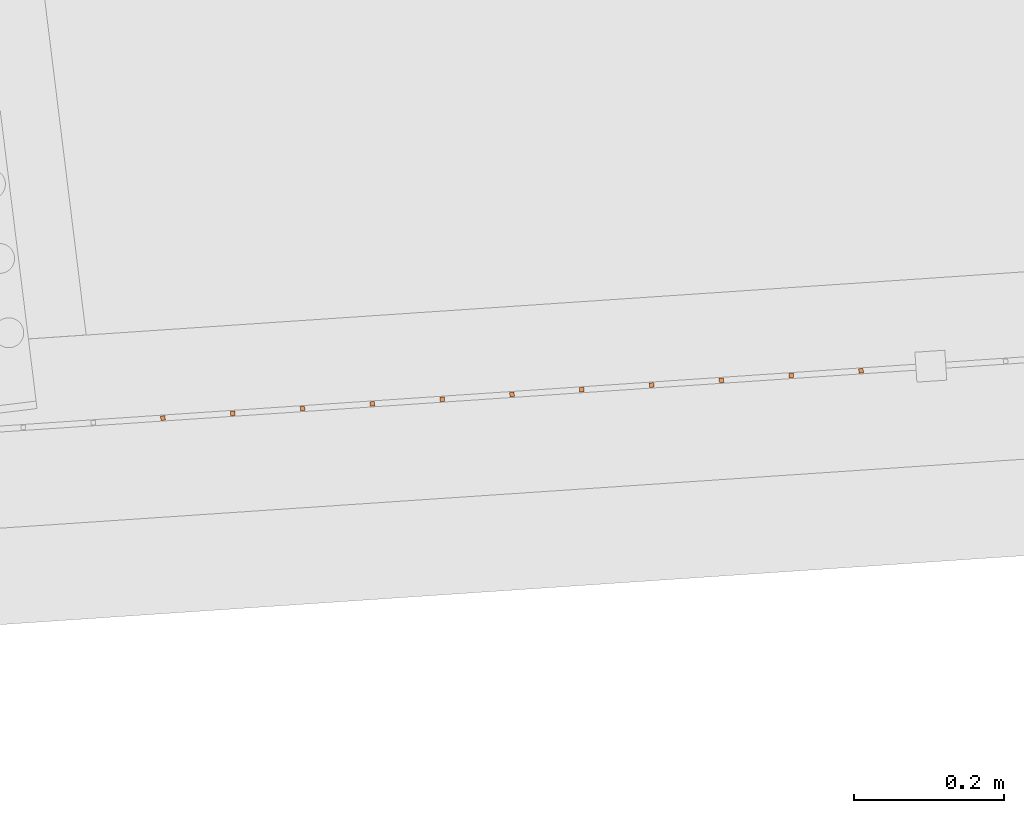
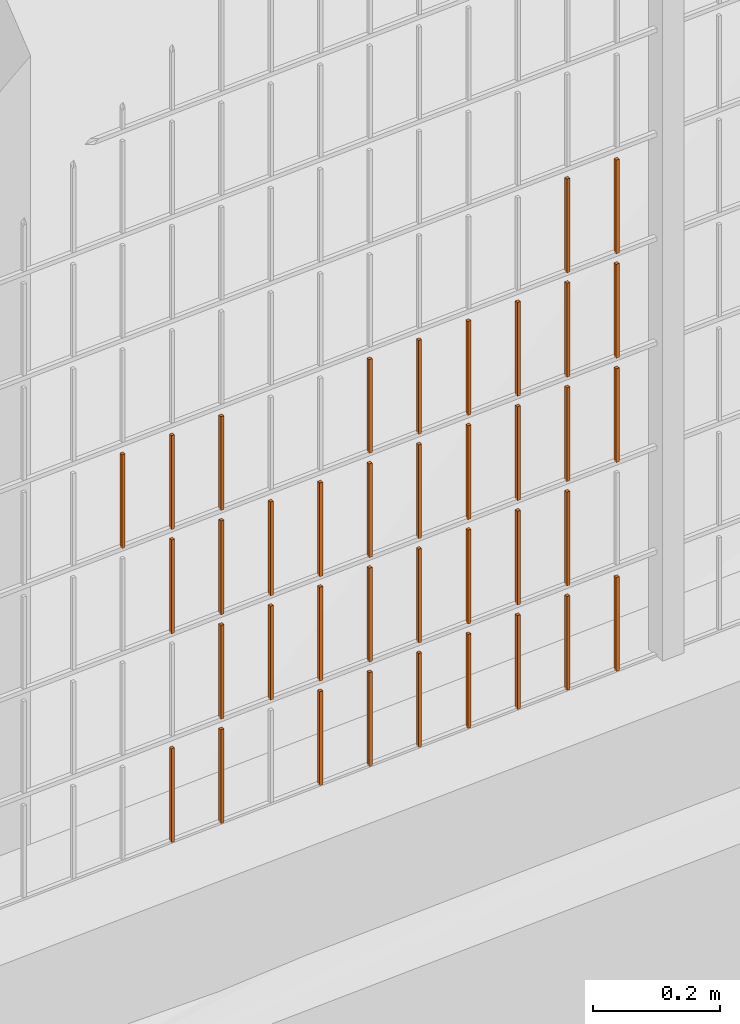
# One storey, part 54 of 1809: 38 proxies, 1 element without a shape of its own.
"""IFC2X3 building model written with IfcOpenShell, lengths in millimetres."""

from ifc_helpers import new_model, entity, si_unit, converted_unit, derived_unit, money_unit, direction, frame, origin_with_axes, place, context, subcontext, project, spatial, faceted_brep, source, transform, mapped, material, type_object, element, aggregate, save


model = new_model("IFC2X3")

# Units and contexts
model_context = context("Model", 3, precision=0.01, world=origin_with_axes(), true_north=direction((0.0, 1.0)))
body_context = subcontext(model_context, "Body", "Model", "MODEL_VIEW")
ifc_project = project(units=[si_unit("LENGTHUNIT", "METRE", prefix="MILLI"), si_unit("AREAUNIT", "SQUARE_METRE"), si_unit("VOLUMEUNIT", "CUBIC_METRE"), converted_unit("PLANEANGLEUNIT", "DEGREE", entity("IfcPlaneAngleMeasure", 0.0174532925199), si_unit("PLANEANGLEUNIT", "RADIAN"), dimensions=[0, 0, 0, 0, 0, 0, 0]), si_unit("SOLIDANGLEUNIT", "STERADIAN"), money_unit("EUR"), converted_unit("TIMEUNIT", "Year", entity("IfcTimeMeasure", 31556926.0), si_unit("TIMEUNIT", "SECOND"), dimensions=[0, 0, 1, 0, 0, 0, 0]), si_unit("MASSUNIT", "GRAM", prefix="KILO"), si_unit("THERMODYNAMICTEMPERATUREUNIT", "DEGREE_CELSIUS"), si_unit("LUMINOUSINTENSITYUNIT", "LUMEN"), si_unit("ENERGYUNIT", "JOULE", prefix="MEGA"), derived_unit("THERMALCONDUCTANCEUNIT", [(si_unit("POWERUNIT", "WATT"), 1), (si_unit("LENGTHUNIT", "METRE"), -1), (si_unit("THERMODYNAMICTEMPERATUREUNIT", "KELVIN"), -1)]), derived_unit("SPECIFICHEATCAPACITYUNIT", [(si_unit("ENERGYUNIT", "JOULE"), 1), (si_unit("MASSUNIT", "GRAM", prefix="KILO"), -1), (si_unit("THERMODYNAMICTEMPERATUREUNIT", "KELVIN"), -1)]), derived_unit("MASSDENSITYUNIT", [(si_unit("MASSUNIT", "GRAM", prefix="KILO"), 1), (si_unit("VOLUMEUNIT", "CUBIC_METRE"), -1)])], contexts=[model_context])

# Site, building, storey
site_placement = place(None, origin_with_axes())
site = spatial("IfcSite", under=ifc_project, at=site_placement, Name="Politse- ja Piirivalveameti ning Päästeameti ühishoone", CompositionType="ELEMENT")
building_placement = place(site_placement, origin_with_axes())
building = spatial("IfcBuilding", under=site, at=building_placement, Name="Politse- ja Piirivalveameti ning Päästeameti ühishoone", CompositionType="ELEMENT")
storey_placement = place(building_placement, origin_with_axes())
storey = spatial("IfcBuildingStorey", under=building, at=storey_placement, Name="Esimene korrus", CompositionType="ELEMENT", Elevation=0.0)

# Proxies
building_element_proxy_type_1 = type_object("IfcBuildingElementProxyType", Name="Railing Type", PredefinedType="NOTDEFINED")
proxy_1_placement = place(storey_placement, frame((89252.001212, -29183.4766571, 203.661247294), z_axis=(0.0, 0.0, 1.0), x_axis=(1.0, 0.0, 0.0)))
proxy_1 = element("IfcBuildingElementProxy", 1, at=proxy_1_placement, inside=storey, type_object=building_element_proxy_type_1, Name="PIIRDEAED")
ifc_material = material(Name="ET-03_Raud")
building_element_proxy_type_2 = type_object("IfcBuildingElementProxyType", Name="IfcBuildingElementProxy", PredefinedType="NOTDEFINED")
shared_shape_1 = source(origin_with_axes(), body_context, "Body", "Brep", [
    faceted_brep([(3.0, 3.0, -0.000752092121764), (-3.0, 3.0, -0.000752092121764), (-3.0, 3.0, 179.99926046), (3.0, 3.0, 179.99926046), (3.0, -3.0, 0.000752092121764), (-3.0, -3.0, 0.000752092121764), (-3.0, -3.0, 180.000764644), (3.0, -3.0, 180.000764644)], [[[0, 1, 2, 3]], [[0, 4, 5, 1]], [[1, 5, 6, 2]], [[3, 2, 6, 7]], [[4, 0, 3, 7]], [[5, 4, 7, 6]]]),
])
proxy_2_placement = place(proxy_1_placement, frame((-107921.545222, -24587.4678602, 400.117087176), z_axis=(0.0, 0.0, 1.0), x_axis=(1.0, 0.0, 0.0)))
proxy_2 = element("IfcBuildingElementProxy", 2, at=proxy_2_placement, type_object=building_element_proxy_type_2, material=ifc_material, Name="BALUSTER - 001", context=body_context, shape_type="MappedRepresentation", body=[
    mapped(shared_shape_1, transform((0.0, 0.0, 0.0), x_axis=(-0.0673926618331, 0.997726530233, 0.0), y_axis=(-0.997726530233, -0.0673926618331, 0.0), z_axis=(0.0, 0.0, 1.0))),
])
shared_shape_2 = source(origin_with_axes(), body_context, "Body", "Brep", [
    faceted_brep([(3.0, 3.0, -0.000752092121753), (-3.0, 3.0, -0.000752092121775), (-3.0, 3.0, 179.99926046), (3.0, 3.0, 179.99926046), (3.0, -3.0, 0.000752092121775), (-3.0, -3.0, 0.000752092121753), (-3.0, -3.0, 180.000764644), (3.0, -3.0, 180.000764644)], [[[0, 1, 2, 3]], [[0, 4, 5, 1]], [[1, 5, 6, 2]], [[3, 2, 6, 7]], [[4, 0, 3, 7]], [[5, 4, 7, 6]]]),
])
proxy_3_placement = place(proxy_1_placement, frame((-107641.924811, -24568.5805566, 0.187347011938), z_axis=(0.0, 0.0, 1.0), x_axis=(1.0, 0.0, 0.0)))
proxy_3 = element("IfcBuildingElementProxy", 3, at=proxy_3_placement, type_object=building_element_proxy_type_2, material=ifc_material, Name="BALUSTER - 001", context=body_context, shape_type="MappedRepresentation", body=[
    mapped(shared_shape_2, transform((0.0, 0.0, 0.0), x_axis=(-0.0673926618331, 0.997726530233, 0.0), y_axis=(-0.997726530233, -0.0673926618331, 0.0), z_axis=(0.0, 0.0, 1.0))),
])
shared_shape_3 = source(origin_with_axes(), body_context, "Body", "Brep", [
    faceted_brep([(3.0, 3.0, -0.000752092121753), (-3.0, 3.0, -0.000752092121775), (-3.0, 3.0, 179.99926046), (3.0, 3.0, 179.99926046), (3.0, -3.0, 0.000752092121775), (-3.0, -3.0, 0.000752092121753), (-3.0, -3.0, 180.000764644), (3.0, -3.0, 180.000764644)], [[[0, 1, 2, 3]], [[0, 4, 5, 1]], [[1, 5, 6, 2]], [[3, 2, 6, 7]], [[4, 0, 3, 7]], [[5, 4, 7, 6]]]),
])
proxy_4_placement = place(proxy_1_placement, frame((-107641.924811, -24568.5805566, 200.187347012), z_axis=(0.0, 0.0, 1.0), x_axis=(1.0, 0.0, 0.0)))
proxy_4 = element("IfcBuildingElementProxy", 4, at=proxy_4_placement, type_object=building_element_proxy_type_2, material=ifc_material, Name="BALUSTER - 001", context=body_context, shape_type="MappedRepresentation", body=[
    mapped(shared_shape_3, transform((0.0, 0.0, 0.0), x_axis=(-0.0673926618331, 0.997726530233, 0.0), y_axis=(-0.997726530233, -0.0673926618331, 0.0), z_axis=(0.0, 0.0, 1.0))),
])
proxy_5_placement = place(proxy_1_placement, frame((-107641.924811, -24568.5805566, 400.187347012), z_axis=(0.0, 0.0, 1.0), x_axis=(1.0, 0.0, 0.0)))
proxy_5 = element("IfcBuildingElementProxy", 5, at=proxy_5_placement, type_object=building_element_proxy_type_2, material=ifc_material, Name="BALUSTER - 001", context=body_context, shape_type="MappedRepresentation", body=[
    mapped(shared_shape_3, transform((0.0, 0.0, 0.0), x_axis=(-0.0673926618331, 0.997726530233, 0.0), y_axis=(-0.997726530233, -0.0673926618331, 0.0), z_axis=(0.0, 0.0, 1.0))),
])
proxy_6_placement = place(proxy_1_placement, frame((-107641.924811, -24568.5805566, 600.187347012), z_axis=(0.0, 0.0, 1.0), x_axis=(1.0, 0.0, 0.0)))
proxy_6 = element("IfcBuildingElementProxy", 6, at=proxy_6_placement, type_object=building_element_proxy_type_2, material=ifc_material, Name="BALUSTER - 001", context=body_context, shape_type="MappedRepresentation", body=[
    mapped(shared_shape_3, transform((0.0, 0.0, 0.0), x_axis=(-0.0673926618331, 0.997726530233, 0.0), y_axis=(-0.997726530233, -0.0673926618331, 0.0), z_axis=(0.0, 0.0, 1.0))),
])
shared_shape_4 = source(origin_with_axes(), body_context, "Body", "Brep", [
    faceted_brep([(3.0, 3.0, -0.000752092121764), (-3.0, 3.0, -0.000752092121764), (-3.0, 3.0, 179.99926046), (3.0, 3.0, 179.99926046), (3.0, -3.0, 0.000752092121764), (-3.0, -3.0, 0.000752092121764), (-3.0, -3.0, 180.000764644), (3.0, -3.0, 180.000764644)], [[[0, 1, 2, 3]], [[0, 4, 5, 1]], [[1, 5, 6, 2]], [[3, 2, 6, 7]], [[4, 0, 3, 7]], [[5, 4, 7, 6]]]),
])
proxy_7_placement = place(proxy_1_placement, frame((-107175.890793, -24537.1017174, 0.304446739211), z_axis=(0.0, 0.0, 1.0), x_axis=(1.0, 0.0, 0.0)))
proxy_7 = element("IfcBuildingElementProxy", 7, at=proxy_7_placement, type_object=building_element_proxy_type_2, material=ifc_material, Name="BALUSTER - 001", context=body_context, shape_type="MappedRepresentation", body=[
    mapped(shared_shape_4, transform((0.0, 0.0, 0.0), x_axis=(-0.0673926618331, 0.997726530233, 0.0), y_axis=(-0.997726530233, -0.0673926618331, 0.0), z_axis=(0.0, 0.0, 1.0))),
])
proxy_8_placement = place(proxy_1_placement, frame((-107548.718008, -24562.2847888, 0.210766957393), z_axis=(0.0, 0.0, 1.0), x_axis=(1.0, 0.0, 0.0)))
proxy_8 = element("IfcBuildingElementProxy", 8, at=proxy_8_placement, type_object=building_element_proxy_type_2, material=ifc_material, Name="BALUSTER - 001", context=body_context, shape_type="MappedRepresentation", body=[
    mapped(shared_shape_4, transform((0.0, 0.0, 0.0), x_axis=(-0.0673926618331, 0.997726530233, 0.0), y_axis=(-0.997726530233, -0.0673926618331, 0.0), z_axis=(0.0, 0.0, 1.0))),
])
shared_shape_5 = source(origin_with_axes(), body_context, "Body", "Brep", [
    faceted_brep([(3.0, 3.0, -0.000752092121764), (-3.0, 3.0, -0.000752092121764), (-3.0, 3.0, 179.99926046), (3.0, 3.0, 179.99926046), (3.0, -3.0, 0.000752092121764), (-3.0, -3.0, 0.000752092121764), (-3.0, -3.0, 180.000764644), (3.0, -3.0, 180.000764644)], [[[0, 1, 2, 3]], [[0, 4, 5, 1]], [[1, 5, 6, 2]], [[3, 2, 6, 7]], [[4, 0, 3, 7]], [[5, 4, 7, 6]]]),
])
proxy_9_placement = place(proxy_1_placement, frame((-107921.545222, -24587.4678602, 0.117087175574), z_axis=(0.0, 0.0, 1.0), x_axis=(1.0, 0.0, 0.0)))
proxy_9 = element("IfcBuildingElementProxy", 9, at=proxy_9_placement, type_object=building_element_proxy_type_2, material=ifc_material, Name="BALUSTER - 001", context=body_context, shape_type="MappedRepresentation", body=[
    mapped(shared_shape_5, transform((0.0, 0.0, 0.0), x_axis=(-0.0673926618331, 0.997726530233, 0.0), y_axis=(-0.997726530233, -0.0673926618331, 0.0), z_axis=(0.0, 0.0, 1.0))),
])
shared_shape_6 = source(origin_with_axes(), body_context, "Body", "Brep", [
    faceted_brep([(3.0, 3.0, -0.000752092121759), (-3.0, 3.0, -0.000752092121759), (-3.0, 3.0, 179.99926046), (3.0, 3.0, 179.99926046), (3.0, -3.0, 0.000752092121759), (-3.0, -3.0, 0.000752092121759), (-3.0, -3.0, 180.000764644), (3.0, -3.0, 180.000764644)], [[[0, 1, 2, 3]], [[0, 4, 5, 1]], [[1, 5, 6, 2]], [[3, 2, 6, 7]], [[4, 0, 3, 7]], [[5, 4, 7, 6]]]),
])
proxy_10_placement = place(proxy_1_placement, frame((-107735.131615, -24574.8763245, 0.163927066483), z_axis=(0.0, 0.0, 1.0), x_axis=(1.0, 0.0, 0.0)))
proxy_10 = element("IfcBuildingElementProxy", 10, at=proxy_10_placement, type_object=building_element_proxy_type_2, material=ifc_material, Name="BALUSTER - 001", context=body_context, shape_type="MappedRepresentation", body=[
    mapped(shared_shape_6, transform((0.0, 0.0, 0.0), x_axis=(-0.0673926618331, 0.997726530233, 0.0), y_axis=(-0.997726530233, -0.0673926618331, 0.0), z_axis=(0.0, 0.0, 1.0))),
])
shared_shape_7 = source(origin_with_axes(), body_context, "Body", "Brep", [
    faceted_brep([(3.0, 3.0, -0.000752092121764), (-3.0, 3.0, -0.000752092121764), (-3.0, 3.0, 179.99926046), (3.0, 3.0, 179.99926046), (3.0, -3.0, 0.000752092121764), (-3.0, -3.0, 0.000752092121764), (-3.0, -3.0, 180.000764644), (3.0, -3.0, 180.000764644)], [[[0, 1, 2, 3]], [[0, 4, 5, 1]], [[1, 5, 6, 2]], [[3, 2, 6, 7]], [[4, 0, 3, 7]], [[5, 4, 7, 6]]]),
])
proxy_11_placement = place(proxy_1_placement, frame((-107269.097597, -24543.3974853, 200.281026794), z_axis=(0.0, 0.0, 1.0), x_axis=(1.0, 0.0, 0.0)))
proxy_11 = element("IfcBuildingElementProxy", 11, at=proxy_11_placement, type_object=building_element_proxy_type_2, material=ifc_material, Name="BALUSTER - 001", context=body_context, shape_type="MappedRepresentation", body=[
    mapped(shared_shape_7, transform((0.0, 0.0, 0.0), x_axis=(-0.0673926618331, 0.997726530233, 0.0), y_axis=(-0.997726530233, -0.0673926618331, 0.0), z_axis=(0.0, 0.0, 1.0))),
])
shared_shape_8 = source(origin_with_axes(), body_context, "Body", "Brep", [
    faceted_brep([(3.0, 3.0, -0.000752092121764), (-3.0, 3.0, -0.000752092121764), (-3.0, 3.0, 179.99926046), (3.0, 3.0, 179.99926046), (3.0, -3.0, 0.000752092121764), (-3.0, -3.0, 0.000752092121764), (-3.0, -3.0, 180.000764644), (3.0, -3.0, 180.000764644)], [[[0, 1, 2, 3]], [[0, 4, 5, 1]], [[1, 5, 6, 2]], [[3, 2, 6, 7]], [[4, 0, 3, 7]], [[5, 4, 7, 6]]]),
])
proxy_12_placement = place(proxy_1_placement, frame((-107921.545222, -24587.4678602, 200.117087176), z_axis=(0.0, 0.0, 1.0), x_axis=(1.0, 0.0, 0.0)))
proxy_12 = element("IfcBuildingElementProxy", 12, at=proxy_12_placement, type_object=building_element_proxy_type_2, material=ifc_material, Name="BALUSTER - 001", context=body_context, shape_type="MappedRepresentation", body=[
    mapped(shared_shape_8, transform((0.0, 0.0, 0.0), x_axis=(-0.0673926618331, 0.997726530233, 0.0), y_axis=(-0.997726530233, -0.0673926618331, 0.0), z_axis=(0.0, 0.0, 1.0))),
])
shared_shape_9 = source(origin_with_axes(), body_context, "Body", "Brep", [
    faceted_brep([(3.0, 3.0, -0.000752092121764), (-3.0, 3.0, -0.000752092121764), (-3.0, 3.0, 179.99926046), (3.0, 3.0, 179.99926046), (3.0, -3.0, 0.000752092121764), (-3.0, -3.0, 0.000752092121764), (-3.0, -3.0, 180.000764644), (3.0, -3.0, 180.000764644)], [[[0, 1, 2, 3]], [[0, 4, 5, 1]], [[1, 5, 6, 2]], [[3, 2, 6, 7]], [[4, 0, 3, 7]], [[5, 4, 7, 6]]]),
])
proxy_13_placement = place(proxy_1_placement, frame((-107828.338419, -24581.1720923, 200.140507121), z_axis=(0.0, 0.0, 1.0), x_axis=(1.0, 0.0, 0.0)))
proxy_13 = element("IfcBuildingElementProxy", 13, at=proxy_13_placement, type_object=building_element_proxy_type_2, material=ifc_material, Name="BALUSTER - 001", context=body_context, shape_type="MappedRepresentation", body=[
    mapped(shared_shape_9, transform((0.0, 0.0, 0.0), x_axis=(-0.0673926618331, 0.997726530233, 0.0), y_axis=(-0.997726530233, -0.0673926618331, 0.0), z_axis=(0.0, 0.0, 1.0))),
])
shared_shape_10 = source(origin_with_axes(), body_context, "Body", "Brep", [
    faceted_brep([(3.0, 3.0, -0.000752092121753), (-3.0, 3.0, -0.000752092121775), (-3.0, 3.0, 179.99926046), (3.0, 3.0, 179.99926046), (3.0, -3.0, 0.000752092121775), (-3.0, -3.0, 0.000752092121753), (-3.0, -3.0, 180.000764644), (3.0, -3.0, 180.000764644)], [[[0, 1, 2, 3]], [[0, 4, 5, 1]], [[1, 5, 6, 2]], [[3, 2, 6, 7]], [[4, 0, 3, 7]], [[5, 4, 7, 6]]]),
])
proxy_14_placement = place(proxy_1_placement, frame((-107921.545222, -24587.4678602, 600.117087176), z_axis=(0.0, 0.0, 1.0), x_axis=(1.0, 0.0, 0.0)))
proxy_14 = element("IfcBuildingElementProxy", 14, at=proxy_14_placement, type_object=building_element_proxy_type_2, material=ifc_material, Name="BALUSTER - 001", context=body_context, shape_type="MappedRepresentation", body=[
    mapped(shared_shape_10, transform((0.0, 0.0, 0.0), x_axis=(-0.0673926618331, 0.997726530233, 0.0), y_axis=(-0.997726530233, -0.0673926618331, 0.0), z_axis=(0.0, 0.0, 1.0))),
])
shared_shape_11 = source(origin_with_axes(), body_context, "Body", "Brep", [
    faceted_brep([(3.0, 3.0, -0.000752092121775), (-3.0, 3.0, -0.000752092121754), (-3.0, 3.0, 179.99926046), (3.0, 3.0, 179.99926046), (3.0, -3.0, 0.000752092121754), (-3.0, -3.0, 0.000752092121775), (-3.0, -3.0, 180.000764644), (3.0, -3.0, 180.000764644)], [[[0, 1, 2, 3]], [[0, 4, 5, 1]], [[1, 5, 6, 2]], [[3, 2, 6, 7]], [[4, 0, 3, 7]], [[5, 4, 7, 6]]]),
])
proxy_15_placement = place(proxy_1_placement, frame((-107455.511204, -24555.989021, 400.234186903), z_axis=(0.0, 0.0, 1.0), x_axis=(1.0, 0.0, 0.0)))
proxy_15 = element("IfcBuildingElementProxy", 15, at=proxy_15_placement, type_object=building_element_proxy_type_2, material=ifc_material, Name="BALUSTER - 001", context=body_context, shape_type="MappedRepresentation", body=[
    mapped(shared_shape_11, transform((0.0, 0.0, 0.0), x_axis=(-0.0673926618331, 0.997726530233, 0.0), y_axis=(-0.997726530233, -0.0673926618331, 0.0), z_axis=(0.0, 0.0, 1.0))),
])
proxy_16_placement = place(proxy_1_placement, frame((-107455.511204, -24555.989021, 600.234186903), z_axis=(0.0, 0.0, 1.0), x_axis=(1.0, 0.0, 0.0)))
proxy_16 = element("IfcBuildingElementProxy", 16, at=proxy_16_placement, type_object=building_element_proxy_type_2, material=ifc_material, Name="BALUSTER - 001", context=body_context, shape_type="MappedRepresentation", body=[
    mapped(shared_shape_11, transform((0.0, 0.0, 0.0), x_axis=(-0.0673926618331, 0.997726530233, 0.0), y_axis=(-0.997726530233, -0.0673926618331, 0.0), z_axis=(0.0, 0.0, 1.0))),
])
shared_shape_12 = source(origin_with_axes(), body_context, "Body", "Brep", [
    faceted_brep([(3.0, 3.0, -0.000752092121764), (-3.0, 3.0, -0.000752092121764), (-3.0, 3.0, 179.99926046), (3.0, 3.0, 179.99926046), (3.0, -3.0, 0.000752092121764), (-3.0, -3.0, 0.000752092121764), (-3.0, -3.0, 180.000764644), (3.0, -3.0, 180.000764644)], [[[0, 1, 2, 3]], [[0, 4, 5, 1]], [[1, 5, 6, 2]], [[3, 2, 6, 7]], [[4, 0, 3, 7]], [[5, 4, 7, 6]]]),
])
proxy_17_placement = place(proxy_1_placement, frame((-107548.718008, -24562.2847888, 200.210766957), z_axis=(0.0, 0.0, 1.0), x_axis=(1.0, 0.0, 0.0)))
proxy_17 = element("IfcBuildingElementProxy", 17, at=proxy_17_placement, type_object=building_element_proxy_type_2, material=ifc_material, Name="BALUSTER - 001", context=body_context, shape_type="MappedRepresentation", body=[
    mapped(shared_shape_12, transform((0.0, 0.0, 0.0), x_axis=(-0.0673926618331, 0.997726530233, 0.0), y_axis=(-0.997726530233, -0.0673926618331, 0.0), z_axis=(0.0, 0.0, 1.0))),
])
proxy_18_placement = place(proxy_1_placement, frame((-107269.097597, -24543.3974853, 400.281026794), z_axis=(0.0, 0.0, 1.0), x_axis=(1.0, 0.0, 0.0)))
proxy_18 = element("IfcBuildingElementProxy", 18, at=proxy_18_placement, type_object=building_element_proxy_type_2, material=ifc_material, Name="BALUSTER - 001", context=body_context, shape_type="MappedRepresentation", body=[
    mapped(shared_shape_12, transform((0.0, 0.0, 0.0), x_axis=(-0.0673926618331, 0.997726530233, 0.0), y_axis=(-0.997726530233, -0.0673926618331, 0.0), z_axis=(0.0, 0.0, 1.0))),
])
proxy_19_placement = place(proxy_1_placement, frame((-107548.718008, -24562.2847888, 400.210766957), z_axis=(0.0, 0.0, 1.0), x_axis=(1.0, 0.0, 0.0)))
proxy_19 = element("IfcBuildingElementProxy", 19, at=proxy_19_placement, type_object=building_element_proxy_type_2, material=ifc_material, Name="BALUSTER - 001", context=body_context, shape_type="MappedRepresentation", body=[
    mapped(shared_shape_12, transform((0.0, 0.0, 0.0), x_axis=(-0.0673926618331, 0.997726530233, 0.0), y_axis=(-0.997726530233, -0.0673926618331, 0.0), z_axis=(0.0, 0.0, 1.0))),
])
proxy_20_placement = place(proxy_1_placement, frame((-107828.338419, -24581.1720923, 400.140507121), z_axis=(0.0, 0.0, 1.0), x_axis=(1.0, 0.0, 0.0)))
proxy_20 = element("IfcBuildingElementProxy", 20, at=proxy_20_placement, type_object=building_element_proxy_type_2, material=ifc_material, Name="BALUSTER - 001", context=body_context, shape_type="MappedRepresentation", body=[
    mapped(shared_shape_12, transform((0.0, 0.0, 0.0), x_axis=(-0.0673926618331, 0.997726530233, 0.0), y_axis=(-0.997726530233, -0.0673926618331, 0.0), z_axis=(0.0, 0.0, 1.0))),
])
proxy_21_placement = place(proxy_1_placement, frame((-107175.890793, -24537.1017174, 600.304446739), z_axis=(0.0, 0.0, 1.0), x_axis=(1.0, 0.0, 0.0)))
proxy_21 = element("IfcBuildingElementProxy", 21, at=proxy_21_placement, type_object=building_element_proxy_type_2, material=ifc_material, Name="BALUSTER - 001", context=body_context, shape_type="MappedRepresentation", body=[
    mapped(shared_shape_12, transform((0.0, 0.0, 0.0), x_axis=(-0.0673926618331, 0.997726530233, 0.0), y_axis=(-0.997726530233, -0.0673926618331, 0.0), z_axis=(0.0, 0.0, 1.0))),
])
proxy_22_placement = place(proxy_1_placement, frame((-107269.097597, -24543.3974853, 600.281026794), z_axis=(0.0, 0.0, 1.0), x_axis=(1.0, 0.0, 0.0)))
proxy_22 = element("IfcBuildingElementProxy", 22, at=proxy_22_placement, type_object=building_element_proxy_type_2, material=ifc_material, Name="BALUSTER - 001", context=body_context, shape_type="MappedRepresentation", body=[
    mapped(shared_shape_12, transform((0.0, 0.0, 0.0), x_axis=(-0.0673926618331, 0.997726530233, 0.0), y_axis=(-0.997726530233, -0.0673926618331, 0.0), z_axis=(0.0, 0.0, 1.0))),
])
shared_shape_13 = source(origin_with_axes(), body_context, "Body", "Brep", [
    faceted_brep([(3.0, 3.0, -0.000752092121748), (-3.0, 3.0, -0.00075209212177), (-3.0, 3.0, 179.99926046), (3.0, 3.0, 179.99926046), (3.0, -3.0, 0.00075209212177), (-3.0, -3.0, 0.000752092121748), (-3.0, -3.0, 180.000764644), (3.0, -3.0, 180.000764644)], [[[0, 1, 2, 3]], [[0, 4, 5, 1]], [[1, 5, 6, 2]], [[3, 2, 6, 7]], [[4, 0, 3, 7]], [[5, 4, 7, 6]]]),
])
proxy_23_placement = place(proxy_1_placement, frame((-108014.752026, -24593.763628, 600.09366723), z_axis=(0.0, 0.0, 1.0), x_axis=(1.0, 0.0, 0.0)))
proxy_23 = element("IfcBuildingElementProxy", 23, at=proxy_23_placement, type_object=building_element_proxy_type_2, material=ifc_material, Name="BALUSTER - 001", context=body_context, shape_type="MappedRepresentation", body=[
    mapped(shared_shape_13, transform((0.0, 0.0, 0.0), x_axis=(-0.0673926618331, 0.997726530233, 0.0), y_axis=(-0.997726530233, -0.0673926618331, 0.0), z_axis=(0.0, 0.0, 1.0))),
])
shared_shape_14 = source(origin_with_axes(), body_context, "Body", "Brep", [
    faceted_brep([(3.0, 3.0, -0.000752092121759), (-3.0, 3.0, -0.000752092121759), (-3.0, 3.0, 179.99926046), (3.0, 3.0, 179.99926046), (3.0, -3.0, 0.000752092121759), (-3.0, -3.0, 0.000752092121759), (-3.0, -3.0, 180.000764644), (3.0, -3.0, 180.000764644)], [[[0, 1, 2, 3]], [[0, 4, 5, 1]], [[1, 5, 6, 2]], [[3, 2, 6, 7]], [[4, 0, 3, 7]], [[5, 4, 7, 6]]]),
])
proxy_24_placement = place(proxy_1_placement, frame((-107735.131615, -24574.8763245, 200.163927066), z_axis=(0.0, 0.0, 1.0), x_axis=(1.0, 0.0, 0.0)))
proxy_24 = element("IfcBuildingElementProxy", 24, at=proxy_24_placement, type_object=building_element_proxy_type_2, material=ifc_material, Name="BALUSTER - 001", context=body_context, shape_type="MappedRepresentation", body=[
    mapped(shared_shape_14, transform((0.0, 0.0, 0.0), x_axis=(-0.0673926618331, 0.997726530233, 0.0), y_axis=(-0.997726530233, -0.0673926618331, 0.0), z_axis=(0.0, 0.0, 1.0))),
])
proxy_25_placement = place(proxy_1_placement, frame((-107735.131615, -24574.8763245, 400.163927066), z_axis=(0.0, 0.0, 1.0), x_axis=(1.0, 0.0, 0.0)))
proxy_25 = element("IfcBuildingElementProxy", 25, at=proxy_25_placement, type_object=building_element_proxy_type_2, material=ifc_material, Name="BALUSTER - 001", context=body_context, shape_type="MappedRepresentation", body=[
    mapped(shared_shape_14, transform((0.0, 0.0, 0.0), x_axis=(-0.0673926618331, 0.997726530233, 0.0), y_axis=(-0.997726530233, -0.0673926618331, 0.0), z_axis=(0.0, 0.0, 1.0))),
])
proxy_26_placement = place(proxy_1_placement, frame((-108014.752026, -24593.763628, 400.09366723), z_axis=(0.0, 0.0, 1.0), x_axis=(1.0, 0.0, 0.0)))
proxy_26 = element("IfcBuildingElementProxy", 26, at=proxy_26_placement, type_object=building_element_proxy_type_2, material=ifc_material, Name="BALUSTER - 001", context=body_context, shape_type="MappedRepresentation", body=[
    mapped(shared_shape_14, transform((0.0, 0.0, 0.0), x_axis=(-0.0673926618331, 0.997726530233, 0.0), y_axis=(-0.997726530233, -0.0673926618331, 0.0), z_axis=(0.0, 0.0, 1.0))),
])
shared_shape_15 = source(origin_with_axes(), body_context, "Body", "Brep", [
    faceted_brep([(3.0, 3.0, -0.000752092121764), (-3.0, 3.0, -0.000752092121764), (-3.0, 3.0, 179.99926046), (3.0, 3.0, 179.99926046), (3.0, -3.0, 0.000752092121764), (-3.0, -3.0, 0.000752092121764), (-3.0, -3.0, 180.000764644), (3.0, -3.0, 180.000764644)], [[[0, 1, 2, 3]], [[0, 4, 5, 1]], [[1, 5, 6, 2]], [[3, 2, 6, 7]], [[4, 0, 3, 7]], [[5, 4, 7, 6]]]),
])
proxy_27_placement = place(proxy_1_placement, frame((-107175.890793, -24537.1017174, 400.304446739), z_axis=(0.0, 0.0, 1.0), x_axis=(1.0, 0.0, 0.0)))
proxy_27 = element("IfcBuildingElementProxy", 27, at=proxy_27_placement, type_object=building_element_proxy_type_2, material=ifc_material, Name="BALUSTER - 001", context=body_context, shape_type="MappedRepresentation", body=[
    mapped(shared_shape_15, transform((0.0, 0.0, 0.0), x_axis=(-0.0673926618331, 0.997726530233, 0.0), y_axis=(-0.997726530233, -0.0673926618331, 0.0), z_axis=(0.0, 0.0, 1.0))),
])
shared_shape_16 = source(origin_with_axes(), body_context, "Body", "Brep", [
    faceted_brep([(3.0, 3.0, -0.000752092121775), (-3.0, 3.0, -0.000752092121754), (-3.0, 3.0, 179.99926046), (3.0, 3.0, 179.99926046), (3.0, -3.0, 0.000752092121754), (-3.0, -3.0, 0.000752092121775), (-3.0, -3.0, 180.000764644), (3.0, -3.0, 180.000764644)], [[[0, 1, 2, 3]], [[0, 4, 5, 1]], [[1, 5, 6, 2]], [[3, 2, 6, 7]], [[4, 0, 3, 7]], [[5, 4, 7, 6]]]),
])
proxy_28_placement = place(proxy_1_placement, frame((-107548.718008, -24562.2847888, 600.210766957), z_axis=(0.0, 0.0, 1.0), x_axis=(1.0, 0.0, 0.0)))
proxy_28 = element("IfcBuildingElementProxy", 28, at=proxy_28_placement, type_object=building_element_proxy_type_2, material=ifc_material, Name="BALUSTER - 001", context=body_context, shape_type="MappedRepresentation", body=[
    mapped(shared_shape_16, transform((0.0, 0.0, 0.0), x_axis=(-0.0673926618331, 0.997726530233, 0.0), y_axis=(-0.997726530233, -0.0673926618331, 0.0), z_axis=(0.0, 0.0, 1.0))),
])
shared_shape_17 = source(origin_with_axes(), body_context, "Body", "Brep", [
    faceted_brep([(3.0, 3.0, -0.000752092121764), (-3.0, 3.0, -0.000752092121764), (-3.0, 3.0, 179.99926046), (3.0, 3.0, 179.99926046), (3.0, -3.0, 0.000752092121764), (-3.0, -3.0, 0.000752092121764), (-3.0, -3.0, 180.000764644), (3.0, -3.0, 180.000764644)], [[[0, 1, 2, 3]], [[0, 4, 5, 1]], [[1, 5, 6, 2]], [[3, 2, 6, 7]], [[4, 0, 3, 7]], [[5, 4, 7, 6]]]),
])
proxy_29_placement = place(proxy_1_placement, frame((-107269.097597, -24543.3974853, 0.281026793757), z_axis=(0.0, 0.0, 1.0), x_axis=(1.0, 0.0, 0.0)))
proxy_29 = element("IfcBuildingElementProxy", 29, at=proxy_29_placement, type_object=building_element_proxy_type_2, material=ifc_material, Name="BALUSTER - 001", context=body_context, shape_type="MappedRepresentation", body=[
    mapped(shared_shape_17, transform((0.0, 0.0, 0.0), x_axis=(-0.0673926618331, 0.997726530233, 0.0), y_axis=(-0.997726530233, -0.0673926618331, 0.0), z_axis=(0.0, 0.0, 1.0))),
])
proxy_30_placement = place(proxy_1_placement, frame((-107455.511204, -24555.989021, 200.234186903), z_axis=(0.0, 0.0, 1.0), x_axis=(1.0, 0.0, 0.0)))
proxy_30 = element("IfcBuildingElementProxy", 30, at=proxy_30_placement, type_object=building_element_proxy_type_2, material=ifc_material, Name="BALUSTER - 001", context=body_context, shape_type="MappedRepresentation", body=[
    mapped(shared_shape_17, transform((0.0, 0.0, 0.0), x_axis=(-0.0673926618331, 0.997726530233, 0.0), y_axis=(-0.997726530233, -0.0673926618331, 0.0), z_axis=(0.0, 0.0, 1.0))),
])
shared_shape_18 = source(origin_with_axes(), body_context, "Body", "Brep", [
    faceted_brep([(3.0, 3.0, -0.000752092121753), (-3.0, 3.0, -0.000752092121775), (-3.0, 3.0, 179.99926046), (3.0, 3.0, 179.99926046), (3.0, -3.0, 0.000752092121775), (-3.0, -3.0, 0.000752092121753), (-3.0, -3.0, 180.000764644), (3.0, -3.0, 180.000764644)], [[[0, 1, 2, 3]], [[0, 4, 5, 1]], [[1, 5, 6, 2]], [[3, 2, 6, 7]], [[4, 0, 3, 7]], [[5, 4, 7, 6]]]),
])
proxy_31_placement = place(proxy_1_placement, frame((-107362.3044, -24549.6932531, 0.257606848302), z_axis=(0.0, 0.0, 1.0), x_axis=(1.0, 0.0, 0.0)))
proxy_31 = element("IfcBuildingElementProxy", 31, at=proxy_31_placement, type_object=building_element_proxy_type_2, material=ifc_material, Name="BALUSTER - 001", context=body_context, shape_type="MappedRepresentation", body=[
    mapped(shared_shape_18, transform((0.0, 0.0, 0.0), x_axis=(-0.0673926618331, 0.997726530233, 0.0), y_axis=(-0.997726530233, -0.0673926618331, 0.0), z_axis=(0.0, 0.0, 1.0))),
])
proxy_32_placement = place(proxy_1_placement, frame((-108014.752026, -24593.763628, 0.0936672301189), z_axis=(0.0, 0.0, 1.0), x_axis=(1.0, 0.0, 0.0)))
proxy_32 = element("IfcBuildingElementProxy", 32, at=proxy_32_placement, type_object=building_element_proxy_type_2, material=ifc_material, Name="BALUSTER - 001", context=body_context, shape_type="MappedRepresentation", body=[
    mapped(shared_shape_18, transform((0.0, 0.0, 0.0), x_axis=(-0.0673926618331, 0.997726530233, 0.0), y_axis=(-0.997726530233, -0.0673926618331, 0.0), z_axis=(0.0, 0.0, 1.0))),
])
proxy_33_placement = place(proxy_1_placement, frame((-107362.3044, -24549.6932531, 200.257606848), z_axis=(0.0, 0.0, 1.0), x_axis=(1.0, 0.0, 0.0)))
proxy_33 = element("IfcBuildingElementProxy", 33, at=proxy_33_placement, type_object=building_element_proxy_type_2, material=ifc_material, Name="BALUSTER - 001", context=body_context, shape_type="MappedRepresentation", body=[
    mapped(shared_shape_18, transform((0.0, 0.0, 0.0), x_axis=(-0.0673926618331, 0.997726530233, 0.0), y_axis=(-0.997726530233, -0.0673926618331, 0.0), z_axis=(0.0, 0.0, 1.0))),
])
shared_shape_19 = source(origin_with_axes(), body_context, "Body", "Brep", [
    faceted_brep([(3.0, 3.0, -0.000752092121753), (-3.0, 3.0, -0.000752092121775), (-3.0, 3.0, 179.99926046), (3.0, 3.0, 179.99926046), (3.0, -3.0, 0.000752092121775), (-3.0, -3.0, 0.000752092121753), (-3.0, -3.0, 180.000764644), (3.0, -3.0, 180.000764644)], [[[0, 1, 2, 3]], [[0, 4, 5, 1]], [[1, 5, 6, 2]], [[3, 2, 6, 7]], [[4, 0, 3, 7]], [[5, 4, 7, 6]]]),
])
proxy_34_placement = place(proxy_1_placement, frame((-107362.3044, -24549.6932531, 600.257606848), z_axis=(0.0, 0.0, 1.0), x_axis=(1.0, 0.0, 0.0)))
proxy_34 = element("IfcBuildingElementProxy", 34, at=proxy_34_placement, type_object=building_element_proxy_type_2, material=ifc_material, Name="BALUSTER - 001", context=body_context, shape_type="MappedRepresentation", body=[
    mapped(shared_shape_19, transform((0.0, 0.0, 0.0), x_axis=(-0.0673926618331, 0.997726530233, 0.0), y_axis=(-0.997726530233, -0.0673926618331, 0.0), z_axis=(0.0, 0.0, 1.0))),
])
shared_shape_20 = source(origin_with_axes(), body_context, "Body", "Brep", [
    faceted_brep([(3.0, 3.0, -0.000752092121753), (-3.0, 3.0, -0.000752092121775), (-3.0, 3.0, 179.99926046), (3.0, 3.0, 179.99926046), (3.0, -3.0, 0.000752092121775), (-3.0, -3.0, 0.000752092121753), (-3.0, -3.0, 180.000764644), (3.0, -3.0, 180.000764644)], [[[0, 1, 2, 3]], [[0, 4, 5, 1]], [[1, 5, 6, 2]], [[3, 2, 6, 7]], [[4, 0, 3, 7]], [[5, 4, 7, 6]]]),
])
proxy_35_placement = place(proxy_1_placement, frame((-107362.3044, -24549.6932531, 400.257606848), z_axis=(0.0, 0.0, 1.0), x_axis=(1.0, 0.0, 0.0)))
proxy_35 = element("IfcBuildingElementProxy", 35, at=proxy_35_placement, type_object=building_element_proxy_type_2, material=ifc_material, Name="BALUSTER - 001", context=body_context, shape_type="MappedRepresentation", body=[
    mapped(shared_shape_20, transform((0.0, 0.0, 0.0), x_axis=(-0.0673926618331, 0.997726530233, 0.0), y_axis=(-0.997726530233, -0.0673926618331, 0.0), z_axis=(0.0, 0.0, 1.0))),
])
proxy_36_placement = place(proxy_1_placement, frame((-108107.95883, -24600.0593958, 600.070247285), z_axis=(0.0, 0.0, 1.0), x_axis=(1.0, 0.0, 0.0)))
proxy_36 = element("IfcBuildingElementProxy", 36, at=proxy_36_placement, type_object=building_element_proxy_type_2, material=ifc_material, Name="BALUSTER - 001", context=body_context, shape_type="MappedRepresentation", body=[
    mapped(shared_shape_20, transform((0.0, 0.0, 0.0), x_axis=(-0.0673926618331, 0.997726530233, 0.0), y_axis=(-0.997726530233, -0.0673926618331, 0.0), z_axis=(0.0, 0.0, 1.0))),
])
shared_shape_21 = source(origin_with_axes(), body_context, "Body", "Brep", [
    faceted_brep([(3.0, 3.0, -0.000752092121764), (-3.0, 3.0, -0.000752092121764), (-3.0, 3.0, 179.99926046), (3.0, 3.0, 179.99926046), (3.0, -3.0, 0.000752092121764), (-3.0, -3.0, 0.000752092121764), (-3.0, -3.0, 180.000764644), (3.0, -3.0, 180.000764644)], [[[0, 1, 2, 3]], [[0, 4, 5, 1]], [[1, 5, 6, 2]], [[3, 2, 6, 7]], [[4, 0, 3, 7]], [[5, 4, 7, 6]]]),
])
proxy_37_placement = place(proxy_1_placement, frame((-107175.890793, -24537.1017174, 800.304446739), z_axis=(0.0, 0.0, 1.0), x_axis=(1.0, 0.0, 0.0)))
proxy_37 = element("IfcBuildingElementProxy", 37, at=proxy_37_placement, type_object=building_element_proxy_type_2, material=ifc_material, Name="BALUSTER - 001", context=body_context, shape_type="MappedRepresentation", body=[
    mapped(shared_shape_21, transform((0.0, 0.0, 0.0), x_axis=(-0.0673926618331, 0.997726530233, 0.0), y_axis=(-0.997726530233, -0.0673926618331, 0.0), z_axis=(0.0, 0.0, 1.0))),
])
shared_shape_22 = source(origin_with_axes(), body_context, "Body", "Brep", [
    faceted_brep([(3.0, 3.0, -0.000752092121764), (-3.0, 3.0, -0.000752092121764), (-3.0, 3.0, 179.99926046), (3.0, 3.0, 179.99926046), (3.0, -3.0, 0.000752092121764), (-3.0, -3.0, 0.000752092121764), (-3.0, -3.0, 180.000764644), (3.0, -3.0, 180.000764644)], [[[0, 1, 2, 3]], [[0, 4, 5, 1]], [[1, 5, 6, 2]], [[3, 2, 6, 7]], [[4, 0, 3, 7]], [[5, 4, 7, 6]]]),
])
proxy_38_placement = place(proxy_1_placement, frame((-107269.097597, -24543.3974853, 800.281026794), z_axis=(0.0, 0.0, 1.0), x_axis=(1.0, 0.0, 0.0)))
proxy_38 = element("IfcBuildingElementProxy", 38, at=proxy_38_placement, type_object=building_element_proxy_type_2, material=ifc_material, Name="BALUSTER - 001", context=body_context, shape_type="MappedRepresentation", body=[
    mapped(shared_shape_22, transform((0.0, 0.0, 0.0), x_axis=(-0.0673926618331, 0.997726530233, 0.0), y_axis=(-0.997726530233, -0.0673926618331, 0.0), z_axis=(0.0, 0.0, 1.0))),
])
shared_shape_23 = source(origin_with_axes(), body_context, "Body", "Brep", [
    faceted_brep([(3.0, 3.0, -0.000752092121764), (-3.0, 3.0, -0.000752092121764), (-3.0, 3.0, 179.99926046), (3.0, 3.0, 179.99926046), (3.0, -3.0, 0.000752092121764), (-3.0, -3.0, 0.000752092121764), (-3.0, -3.0, 180.000764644), (3.0, -3.0, 180.000764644)], [[[0, 1, 2, 3]], [[0, 4, 5, 1]], [[1, 5, 6, 2]], [[3, 2, 6, 7]], [[4, 0, 3, 7]], [[5, 4, 7, 6]]]),
])
proxy_39_placement = place(proxy_1_placement, frame((-107455.511204, -24555.989021, 0.234186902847), z_axis=(0.0, 0.0, 1.0), x_axis=(1.0, 0.0, 0.0)))
proxy_39 = element("IfcBuildingElementProxy", 39, at=proxy_39_placement, type_object=building_element_proxy_type_2, material=ifc_material, Name="BALUSTER - 001", context=body_context, shape_type="MappedRepresentation", body=[
    mapped(shared_shape_23, transform((0.0, 0.0, 0.0), x_axis=(-0.0673926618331, 0.997726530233, 0.0), y_axis=(-0.997726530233, -0.0673926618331, 0.0), z_axis=(0.0, 0.0, 1.0))),
])
aggregate(proxy_1, [proxy_7, proxy_29, proxy_31, proxy_39, proxy_8, proxy_3, proxy_10, proxy_9, proxy_32, proxy_11, proxy_33, proxy_30, proxy_17, proxy_4, proxy_24, proxy_13, proxy_12, proxy_27, proxy_18, proxy_35, proxy_15, proxy_19, proxy_5, proxy_25, proxy_20, proxy_2, proxy_26, proxy_21, proxy_22, proxy_34, proxy_16, proxy_28, proxy_6, proxy_14, proxy_23, proxy_36, proxy_37, proxy_38])

save(model, "model.ifc")
